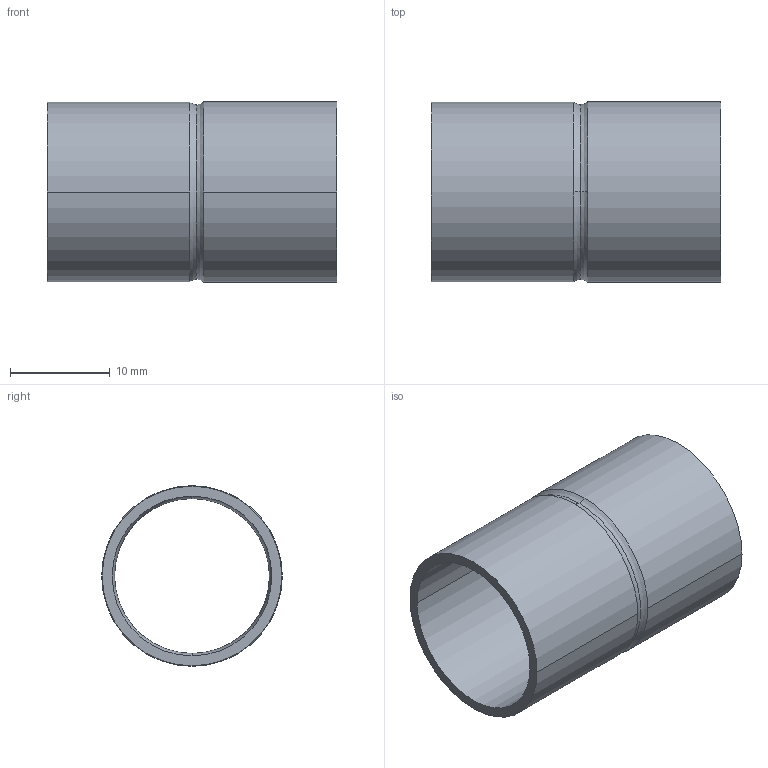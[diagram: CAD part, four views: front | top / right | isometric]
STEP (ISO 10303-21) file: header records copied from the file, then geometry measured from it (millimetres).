
FILE_DESCRIPTION((''),'2;1');
FILE_NAME('G:\Technics\CAD\Bauteile\Serie 15243\152431816.stp','2005-10-21T12:49:35',('boden'),(''),'Autodesk Inventor 8','Autodesk Inventor 8','');
FILE_SCHEMA(('AUTOMOTIVE_DESIGN { 1 0 10303 214 1 1 1 1 }'));
Length unit declared in the file: millimetre
Products named in the file (1): 152431816
Bounding box: 29 x 18.11 x 18.11 mm (x, y, z)
Volume: 1557.7 mm3; surface area: 3223.2 mm2
Topology: 1 solids, 1 shells, 18 faces, 44 edges, 28 vertices
Faces by surface type: cylinder 8, torus 4, bspline 4, plane 2
Entity records: 739 total; most frequent: CARTESIAN_POINT 267, DIRECTION 110, ORIENTED_EDGE 88, AXIS2_PLACEMENT_3D 51, EDGE_CURVE 44, CIRCLE 36, VERTEX_POINT 28, EDGE_LOOP 20
